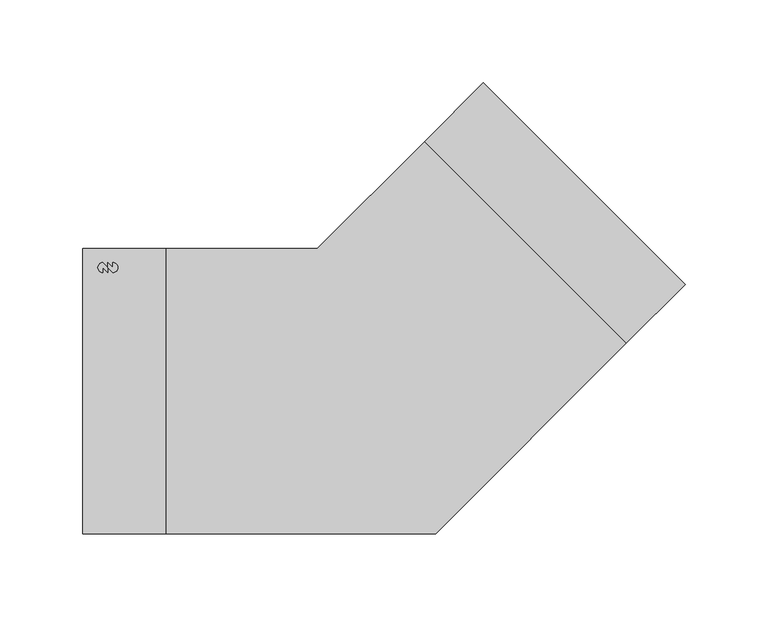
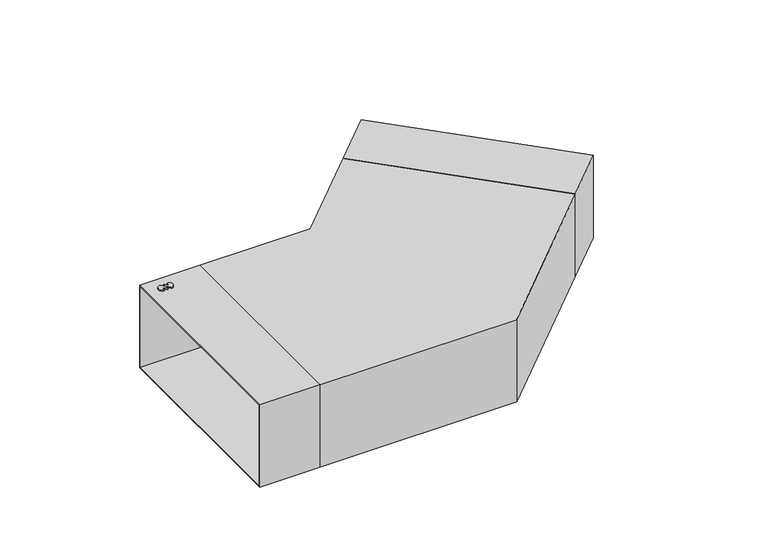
"""IFC4 building model written with IfcOpenShell, lengths in millimetres: duct fitting geometry, NLRS_57_DUF_UN_instortkanaal-haakse-bocht-45_LT_velu : Bocht 45 haaks."""

from ifc_helpers import new_model, si_unit, point, frame, frame_2d, origin, place, context, project, spatial, polyline, circle_curve, trimmed, segment, composite_curve, outline, extrude, source, transform, mapped, element, save


def duct_fitting_13d70ac2(model_context):
    return source(origin(), model_context, "Body", "SweptSolid", [
        extrude(outline(composite_curve([segment(trimmed(circle_curve(frame_2d((-32.0, 74.5)), 3.0), [point((-32.0, 77.5))], [point((-32.0, 71.5))], False, "CARTESIAN"), True, "CONTINUOUS"), segment(polyline([(-32.0, 71.5), (-35.0, 74.5), (-35.0, 77.5), (-32.0, 74.5), (-32.0, 77.5)]), True, "CONTINUOUS")], self_intersect=False)), frame((0.0, 0.0, 36.0), z_axis=(0.0, 0.0, 1.0), x_axis=(1.0, 0.0, 0.0)), (0.0, 0.0, 1.0), 1.0),
        extrude(outline(composite_curve([segment(trimmed(circle_curve(frame_2d((-38.0, 74.5)), 3.0), [point((-38.0, 71.5))], [point((-38.0, 77.5))], False, "CARTESIAN"), True, "CONTINUOUS"), segment(polyline([(-38.0, 77.5), (-35.0, 74.5), (-35.0, 71.5), (-38.0, 74.5), (-38.0, 71.5)]), True, "CONTINUOUS")], self_intersect=False)), frame((0.0, 0.0, 36.0), z_axis=(0.0, 0.0, 1.0), x_axis=(1.0, 0.0, 0.0)), (0.0, 0.0, 1.0), 1.0),
        extrude(outline(polyline([(171.0, -1.0), (-1.0, -1.0), (-1.0, 71.0), (171.0, 71.0), (171.0, -1.0)]), holes=[polyline([(170.0, 70.0), (0.0, 70.0), (0.0, 0.0), (170.0, 0.0), (170.0, 70.0)])]), frame((156.6984848, 149.9066376, 35.0), z_axis=(0.7071067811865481, 0.707106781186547, 0.0), x_axis=(0.707106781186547, -0.7071067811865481, 0.0)), (0.0, 0.0, 1.0), 50.0),
        extrude(outline(polyline([(86.0, -36.0), (-86.0, -36.0), (-86.0, 36.0), (86.0, 36.0), (86.0, -36.0)]), holes=[polyline([(85.0, 35.0), (-85.0, 35.0), (-85.0, -35.0), (85.0, -35.0), (85.0, 35.0)])]), frame((-50.0, 0.0, 0.0), z_axis=(1.0, 0.0, 0.0), x_axis=(0.0, 1.0, 0.0)), (0.0, 0.0, 1.0), 50.0),
        extrude(outline(polyline([(155.991378, 150.6137444), (277.6137444, 28.991378), (162.6223664, -86.0), (0.0, -86.0), (0.0, 86.0), (91.3776336, 86.0), (155.991378, 150.6137444)])), frame((0.0, 0.0, -36.0), z_axis=(0.0, 0.0, 1.0), x_axis=(1.0, 0.0, 0.0)), (0.0, 0.0, 1.0), 72.0),
    ])


if __name__ == "__main__":
    model = new_model("IFC4")
    model_context = context("Model", 3, world=origin())
    ifc_project = project(units=[si_unit("LENGTHUNIT", "METRE", prefix="MILLI")], contexts=[model_context])
    site = spatial("IfcSite", under=ifc_project)
    building = spatial("IfcBuilding", under=site)
    placement = place(None, origin())
    duct_fitting_shape = duct_fitting_13d70ac2(model_context)
    element("IfcDuctFitting", 1, ObjectType="NLRS_57_DUF_UN_instortkanaal-haakse-bocht-45_LT_velu : Bocht 45 haaks", at=placement, inside=building, context=model_context, shape_type="MappedRepresentation", body=[
        mapped(duct_fitting_shape, transform((0.0, 0.0, 0.0), x_axis=(1.0, 0.0, 0.0), y_axis=(0.0, 1.0, 0.0), z_axis=(0.0, 0.0, 1.0))),
    ])
    save(model, "model.ifc")
